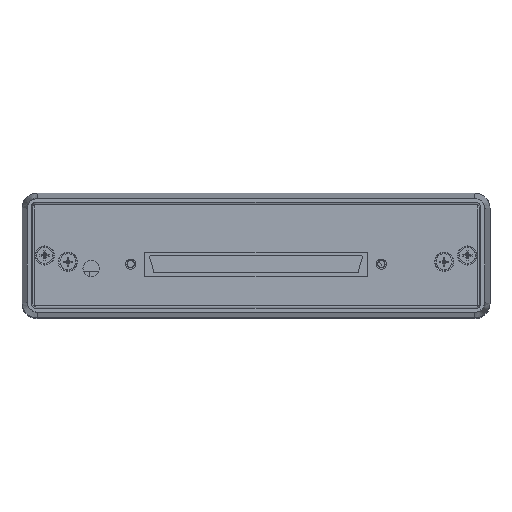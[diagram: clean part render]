
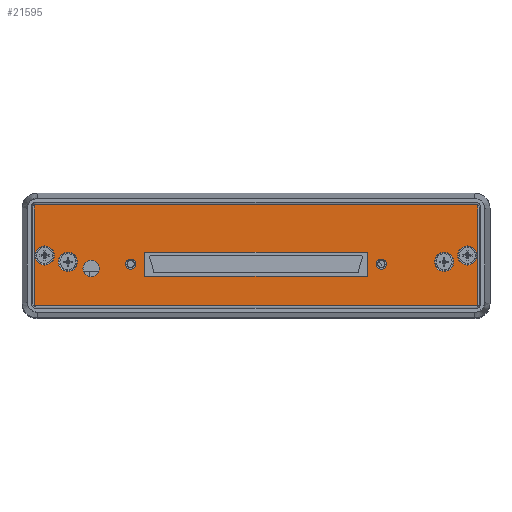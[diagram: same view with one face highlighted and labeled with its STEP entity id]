
A CAD part, top view. The second image highlights one B-rep face of the part: STEP entity #21595.
In plain terms, the highlighted planar face has unit normal (0, 0, 1).
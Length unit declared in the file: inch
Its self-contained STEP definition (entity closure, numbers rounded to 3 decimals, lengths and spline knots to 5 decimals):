
#5952=DIRECTION('',(0.,-1.,0.));
#5953=VECTOR('',#5952,1.24);
#5954=CARTESIAN_POINT('',(-2.725,1.35,0.45));
#5955=LINE('',#5954,#5953);
#5956=DIRECTION('',(-1.,0.,0.));
#5957=VECTOR('',#5956,5.45);
#5958=CARTESIAN_POINT('',(2.725,1.35,0.45));
#5959=LINE('',#5958,#5957);
#5960=DIRECTION('',(0.,1.,0.));
#5961=VECTOR('',#5960,1.24);
#5962=CARTESIAN_POINT('',(2.725,0.11,0.45));
#5963=LINE('',#5962,#5961);
#5964=DIRECTION('',(1.,0.,0.));
#5965=VECTOR('',#5964,5.45);
#5966=CARTESIAN_POINT('',(-2.725,0.11,0.45));
#5967=LINE('',#5966,#5965);
#5968=CARTESIAN_POINT('',(-2.595,0.73,0.45));
#5969=DIRECTION('',(0.,0.,-1.));
#5970=DIRECTION('',(0.,1.,0.));
#5971=AXIS2_PLACEMENT_3D('',#5968,#5969,#5970);
#5973=CARTESIAN_POINT('',(-2.595,0.73,0.45));
#5974=DIRECTION('',(0.,0.,-1.));
#5975=DIRECTION('',(0.,-1.,0.));
#5976=AXIS2_PLACEMENT_3D('',#5973,#5974,#5975);
#5978=CARTESIAN_POINT('',(2.595,0.73,0.45));
#5979=DIRECTION('',(0.,0.,-1.));
#5980=DIRECTION('',(0.,1.,0.));
#5981=AXIS2_PLACEMENT_3D('',#5978,#5979,#5980);
#5983=CARTESIAN_POINT('',(2.595,0.73,0.45));
#5984=DIRECTION('',(0.,0.,-1.));
#5985=DIRECTION('',(0.,-1.,0.));
#5986=AXIS2_PLACEMENT_3D('',#5983,#5984,#5985);
#5988=CARTESIAN_POINT('',(-2.0255,0.57,0.45));
#5989=DIRECTION('',(0.,0.,-1.));
#5990=DIRECTION('',(0.,-1.,0.));
#5991=AXIS2_PLACEMENT_3D('',#5988,#5989,#5990);
#5993=CARTESIAN_POINT('',(-2.0255,0.57,0.45));
#5994=DIRECTION('',(0.,0.,-1.));
#5995=DIRECTION('',(0.,1.,0.));
#5996=AXIS2_PLACEMENT_3D('',#5993,#5994,#5995);
#5998=CARTESIAN_POINT('',(-1.54,0.623,0.45));
#5999=DIRECTION('',(0.,0.,1.));
#6000=DIRECTION('',(-1.,0.,0.));
#6001=AXIS2_PLACEMENT_3D('',#5998,#5999,#6000);
#6003=CARTESIAN_POINT('',(-1.54,0.623,0.45));
#6004=DIRECTION('',(0.,0.,1.));
#6005=DIRECTION('',(1.,0.,0.));
#6006=AXIS2_PLACEMENT_3D('',#6003,#6004,#6005);
#6008=CARTESIAN_POINT('',(1.54,0.623,0.45));
#6009=DIRECTION('',(0.,0.,1.));
#6010=DIRECTION('',(-1.,0.,0.));
#6011=AXIS2_PLACEMENT_3D('',#6008,#6009,#6010);
#6013=CARTESIAN_POINT('',(1.54,0.623,0.45));
#6014=DIRECTION('',(0.,0.,1.));
#6015=DIRECTION('',(1.,0.,0.));
#6016=AXIS2_PLACEMENT_3D('',#6013,#6014,#6015);
#6018=DIRECTION('',(0.,1.,0.));
#6019=VECTOR('',#6018,0.295);
#6020=CARTESIAN_POINT('',(1.367,0.4755,0.45));
#6021=LINE('',#6020,#6019);
#6022=DIRECTION('',(-1.,0.,0.));
#6023=VECTOR('',#6022,2.734);
#6024=CARTESIAN_POINT('',(1.367,0.7705,0.45));
#6025=LINE('',#6024,#6023);
#6026=DIRECTION('',(0.,-1.,0.));
#6027=VECTOR('',#6026,0.295);
#6028=CARTESIAN_POINT('',(-1.367,0.7705,0.45));
#6029=LINE('',#6028,#6027);
#6030=DIRECTION('',(1.,0.,0.));
#6031=VECTOR('',#6030,2.734);
#6032=CARTESIAN_POINT('',(-1.367,0.4755,0.45));
#6033=LINE('',#6032,#6031);
#6034=CARTESIAN_POINT('',(-2.31,0.652,0.45));
#6035=DIRECTION('',(0.,0.,-1.));
#6036=DIRECTION('',(0.,1.,0.));
#6037=AXIS2_PLACEMENT_3D('',#6034,#6035,#6036);
#6039=CARTESIAN_POINT('',(-2.31,0.652,0.45));
#6040=DIRECTION('',(0.,0.,-1.));
#6041=DIRECTION('',(0.,-1.,0.));
#6042=AXIS2_PLACEMENT_3D('',#6039,#6040,#6041);
#6044=CARTESIAN_POINT('',(2.31,0.652,0.45));
#6045=DIRECTION('',(0.,0.,-1.));
#6046=DIRECTION('',(0.,1.,0.));
#6047=AXIS2_PLACEMENT_3D('',#6044,#6045,#6046);
#6049=CARTESIAN_POINT('',(2.31,0.652,0.45));
#6050=DIRECTION('',(0.,0.,-1.));
#6051=DIRECTION('',(0.,-1.,0.));
#6052=AXIS2_PLACEMENT_3D('',#6049,#6050,#6051);
#12046=CARTESIAN_POINT('',(-2.725,1.35,0.45));
#12047=CARTESIAN_POINT('',(-2.725,0.11,0.45));
#12048=VERTEX_POINT('',#12046);
#12049=VERTEX_POINT('',#12047);
#12050=CARTESIAN_POINT('',(2.725,0.11,0.45));
#12051=VERTEX_POINT('',#12050);
#12052=CARTESIAN_POINT('',(2.725,1.35,0.45));
#12053=VERTEX_POINT('',#12052);
#12062=CARTESIAN_POINT('',(-2.595,0.8475,0.45));
#12063=CARTESIAN_POINT('',(-2.595,0.6125,0.45));
#12064=VERTEX_POINT('',#12062);
#12065=VERTEX_POINT('',#12063);
#12066=CARTESIAN_POINT('',(2.595,0.8475,0.45));
#12067=CARTESIAN_POINT('',(2.595,0.6125,0.45));
#12068=VERTEX_POINT('',#12066);
#12069=VERTEX_POINT('',#12067);
#12074=CARTESIAN_POINT('',(-2.0255,0.47,0.45));
#12075=CARTESIAN_POINT('',(-2.0255,0.67,0.45));
#12076=VERTEX_POINT('',#12074);
#12077=VERTEX_POINT('',#12075);
#12078=CARTESIAN_POINT('',(-1.603,0.623,0.45));
#12079=CARTESIAN_POINT('',(-1.477,0.623,0.45));
#12080=VERTEX_POINT('',#12078);
#12081=VERTEX_POINT('',#12079);
#12082=CARTESIAN_POINT('',(1.477,0.623,0.45));
#12083=CARTESIAN_POINT('',(1.603,0.623,0.45));
#12084=VERTEX_POINT('',#12082);
#12085=VERTEX_POINT('',#12083);
#12086=CARTESIAN_POINT('',(1.367,0.4755,0.45));
#12087=CARTESIAN_POINT('',(1.367,0.7705,0.45));
#12088=VERTEX_POINT('',#12086);
#12089=VERTEX_POINT('',#12087);
#12090=CARTESIAN_POINT('',(-1.367,0.7705,0.45));
#12091=VERTEX_POINT('',#12090);
#12092=CARTESIAN_POINT('',(-1.367,0.4755,0.45));
#12093=VERTEX_POINT('',#12092);
#12102=CARTESIAN_POINT('',(-2.31,0.7695,0.45));
#12103=CARTESIAN_POINT('',(-2.31,0.5345,0.45));
#12104=VERTEX_POINT('',#12102);
#12105=VERTEX_POINT('',#12103);
#12106=CARTESIAN_POINT('',(2.31,0.7695,0.45));
#12107=CARTESIAN_POINT('',(2.31,0.5345,0.45));
#12108=VERTEX_POINT('',#12106);
#12109=VERTEX_POINT('',#12107);
#21530=CARTESIAN_POINT('',(0.,0.73,0.45));
#21531=DIRECTION('',(0.,0.,1.));
#21532=DIRECTION('',(1.,0.,0.));
#21533=AXIS2_PLACEMENT_3D('',#21530,#21531,#21532);
#21534=PLANE('',#21533);
#21536=ORIENTED_EDGE('',*,*,#21535,.F.);
#21538=ORIENTED_EDGE('',*,*,#21537,.F.);
#21540=ORIENTED_EDGE('',*,*,#21539,.F.);
#21542=ORIENTED_EDGE('',*,*,#21541,.F.);
#21543=EDGE_LOOP('',(#21536,#21538,#21540,#21542));
#21544=FACE_OUTER_BOUND('',#21543,.F.);
#21546=ORIENTED_EDGE('',*,*,#21545,.F.);
#21548=ORIENTED_EDGE('',*,*,#21547,.F.);
#21549=EDGE_LOOP('',(#21546,#21548));
#21550=FACE_BOUND('',#21549,.F.);
#21552=ORIENTED_EDGE('',*,*,#21551,.F.);
#21554=ORIENTED_EDGE('',*,*,#21553,.F.);
#21555=EDGE_LOOP('',(#21552,#21554));
#21556=FACE_BOUND('',#21555,.F.);
#21557=ORIENTED_EDGE('',*,*,#21510,.F.);
#21558=ORIENTED_EDGE('',*,*,#21524,.F.);
#21559=EDGE_LOOP('',(#21557,#21558));
#21560=FACE_BOUND('',#21559,.F.);
#21562=ORIENTED_EDGE('',*,*,#21561,.T.);
#21564=ORIENTED_EDGE('',*,*,#21563,.T.);
#21565=EDGE_LOOP('',(#21562,#21564));
#21566=FACE_BOUND('',#21565,.F.);
#21568=ORIENTED_EDGE('',*,*,#21567,.T.);
#21570=ORIENTED_EDGE('',*,*,#21569,.T.);
#21571=EDGE_LOOP('',(#21568,#21570));
#21572=FACE_BOUND('',#21571,.F.);
#21574=ORIENTED_EDGE('',*,*,#21573,.T.);
#21576=ORIENTED_EDGE('',*,*,#21575,.T.);
#21578=ORIENTED_EDGE('',*,*,#21577,.T.);
#21580=ORIENTED_EDGE('',*,*,#21579,.T.);
#21581=EDGE_LOOP('',(#21574,#21576,#21578,#21580));
#21582=FACE_BOUND('',#21581,.F.);
#21584=ORIENTED_EDGE('',*,*,#21583,.F.);
#21586=ORIENTED_EDGE('',*,*,#21585,.F.);
#21587=EDGE_LOOP('',(#21584,#21586));
#21588=FACE_BOUND('',#21587,.F.);
#21590=ORIENTED_EDGE('',*,*,#21589,.F.);
#21592=ORIENTED_EDGE('',*,*,#21591,.F.);
#21593=EDGE_LOOP('',(#21590,#21592));
#21594=FACE_BOUND('',#21593,.F.);
#21595=ADVANCED_FACE('',(#21544,#21550,#21556,#21560,#21566,#21572,#21582,
#21588,#21594),#21534,.T.);
#5972=CIRCLE('',#5971,0.1175);
#5977=CIRCLE('',#5976,0.1175);
#5982=CIRCLE('',#5981,0.1175);
#5987=CIRCLE('',#5986,0.1175);
#5992=CIRCLE('',#5991,0.1);
#5997=CIRCLE('',#5996,0.1);
#6002=CIRCLE('',#6001,0.063);
#6007=CIRCLE('',#6006,0.063);
#6012=CIRCLE('',#6011,0.063);
#6017=CIRCLE('',#6016,0.063);
#6038=CIRCLE('',#6037,0.1175);
#6043=CIRCLE('',#6042,0.1175);
#6048=CIRCLE('',#6047,0.1175);
#6053=CIRCLE('',#6052,0.1175);
#21510=EDGE_CURVE('',#12076,#12077,#5992,.T.);
#21524=EDGE_CURVE('',#12077,#12076,#5997,.T.);
#21535=EDGE_CURVE('',#12048,#12049,#5955,.T.);
#21537=EDGE_CURVE('',#12053,#12048,#5959,.T.);
#21539=EDGE_CURVE('',#12051,#12053,#5963,.T.);
#21541=EDGE_CURVE('',#12049,#12051,#5967,.T.);
#21545=EDGE_CURVE('',#12064,#12065,#5972,.T.);
#21547=EDGE_CURVE('',#12065,#12064,#5977,.T.);
#21551=EDGE_CURVE('',#12068,#12069,#5982,.T.);
#21553=EDGE_CURVE('',#12069,#12068,#5987,.T.);
#21561=EDGE_CURVE('',#12080,#12081,#6002,.T.);
#21563=EDGE_CURVE('',#12081,#12080,#6007,.T.);
#21567=EDGE_CURVE('',#12084,#12085,#6012,.T.);
#21569=EDGE_CURVE('',#12085,#12084,#6017,.T.);
#21573=EDGE_CURVE('',#12088,#12089,#6021,.T.);
#21575=EDGE_CURVE('',#12089,#12091,#6025,.T.);
#21577=EDGE_CURVE('',#12091,#12093,#6029,.T.);
#21579=EDGE_CURVE('',#12093,#12088,#6033,.T.);
#21583=EDGE_CURVE('',#12104,#12105,#6038,.T.);
#21585=EDGE_CURVE('',#12105,#12104,#6043,.T.);
#21589=EDGE_CURVE('',#12108,#12109,#6048,.T.);
#21591=EDGE_CURVE('',#12109,#12108,#6053,.T.);
